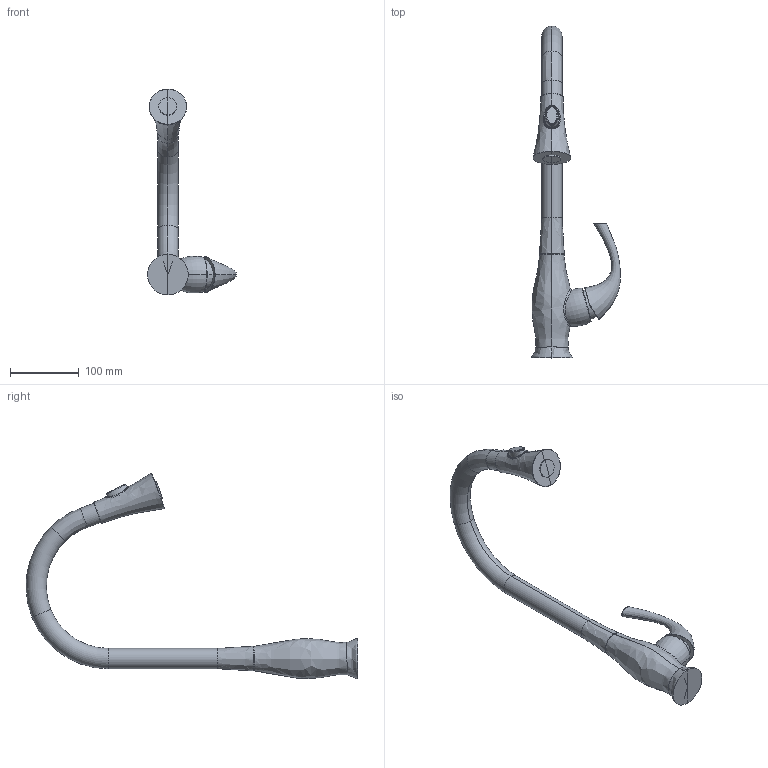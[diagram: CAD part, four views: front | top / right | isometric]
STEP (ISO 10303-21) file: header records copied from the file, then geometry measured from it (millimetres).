
FILE_DESCRIPTION (( 'STEP AP203' ), '1' );
FILE_NAME ('MF8890D.STEP', '2016-08-15T08:42:13', ( '' ), ( '' ), 'SwSTEP 2.0', 'SolidWorks 2016', '' );
FILE_SCHEMA (( 'CONFIG_CONTROL_DESIGN' ));
Length unit declared in the file: millimetre
Products named in the file (1): MF8890D
Bounding box: 129.02 x 481.63 x 298.77 mm (x, y, z)
Surface area: 118409.5 mm2 (no closed solid volume)
Topology: 0 solids, 6 shells, 101 faces, 254 edges, 151 vertices
Faces by surface type: bspline 49, torus 18, cone 18, plane 10, cylinder 6
Entity records: 39016 total; most frequent: CARTESIAN_POINT 37018, ORIENTED_EDGE 466, DIRECTION 278, EDGE_CURVE 240, VERTEX_POINT 151, B_SPLINE_CURVE_WITH_KNOTS 138, AXIS2_PLACEMENT_3D 125, EDGE_LOOP 103
